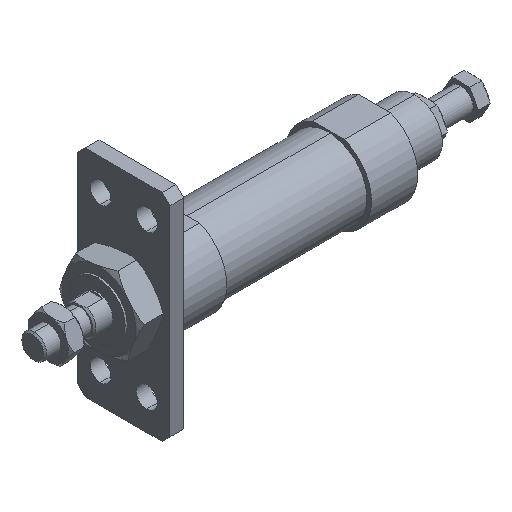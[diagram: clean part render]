
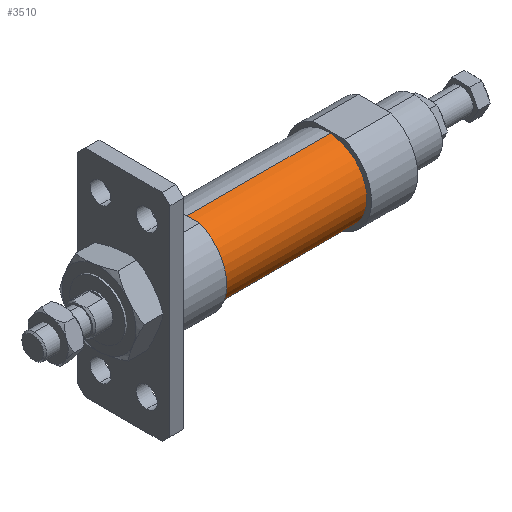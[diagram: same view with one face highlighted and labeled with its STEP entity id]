
A CAD part, isometric view. The second image highlights one B-rep face of the part: STEP entity #3510.
In plain terms, the highlighted cylindrical face has radius 12.5 mm (diameter 25 mm), a partial arc.
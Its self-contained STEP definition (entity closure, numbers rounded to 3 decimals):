
#86 = EDGE_CURVE ( 'NONE', #5156, #4735, #1237, .T. ) ;
#140 = EDGE_CURVE ( 'NONE', #3982, #1540, #570, .T. ) ;
#297 = AXIS2_PLACEMENT_3D ( 'NONE', #1867, #4932, #3779 ) ;
#516 = EDGE_CURVE ( 'NONE', #3982, #5156, #1520, .T. ) ;
#570 = LINE ( 'NONE', #2451, #3505 ) ;
#705 = CYLINDRICAL_SURFACE ( 'NONE', #4228, 12.5 ) ;
#781 = FACE_OUTER_BOUND ( 'NONE', #3902, .T. ) ;
#813 = ORIENTED_EDGE ( 'NONE', *, *, #86, .F. ) ;
#911 = CARTESIAN_POINT ( 'NONE',  ( 23.5, 0., -12.5 ) ) ;
#966 = DIRECTION ( 'NONE',  ( 1., 0., 0. ) ) ;
#1120 = ORIENTED_EDGE ( 'NONE', *, *, #140, .T. ) ;
#1165 = ORIENTED_EDGE ( 'NONE', *, *, #4352, .T. ) ;
#1228 = CIRCLE ( 'NONE', #297, 12.5 ) ;
#1237 = LINE ( 'NONE', #1408, #4824 ) ;
#1262 = ORIENTED_EDGE ( 'NONE', *, *, #516, .F. ) ;
#1408 = CARTESIAN_POINT ( 'NONE',  ( 23.5, 0., -12.5 ) ) ;
#1520 = CIRCLE ( 'NONE', #3255, 12.5 ) ;
#1540 = VERTEX_POINT ( 'NONE', #1957 ) ;
#1785 = CARTESIAN_POINT ( 'NONE',  ( 23.5, 0., 12.5 ) ) ;
#1820 = DIRECTION ( 'NONE',  ( 0., 0., -1. ) ) ;
#1867 = CARTESIAN_POINT ( 'NONE',  ( -23.5, 0., 0. ) ) ;
#1913 = CARTESIAN_POINT ( 'NONE',  ( 23.5, 0., 0. ) ) ;
#1957 = CARTESIAN_POINT ( 'NONE',  ( -23.5, 0., 12.5 ) ) ;
#2217 = CARTESIAN_POINT ( 'NONE',  ( 23.5, 0., 0. ) ) ;
#2250 = DIRECTION ( 'NONE',  ( -1., 0., 0. ) ) ;
#2451 = CARTESIAN_POINT ( 'NONE',  ( 23.5, 0., 12.5 ) ) ;
#3255 = AXIS2_PLACEMENT_3D ( 'NONE', #1913, #966, #1820 ) ;
#3505 = VECTOR ( 'NONE', #4013, 1000. ) ;
#3510 = ADVANCED_FACE ( 'NONE', ( #781 ), #705, .T. ) ;
#3779 = DIRECTION ( 'NONE',  ( 0., 0., -1. ) ) ;
#3902 = EDGE_LOOP ( 'NONE', ( #813, #1262, #1120, #1165 ) ) ;
#3982 = VERTEX_POINT ( 'NONE', #1785 ) ;
#4013 = DIRECTION ( 'NONE',  ( -1., 0., 0. ) ) ;
#4214 = DIRECTION ( 'NONE',  ( 0., 0., 1. ) ) ;
#4228 = AXIS2_PLACEMENT_3D ( 'NONE', #2217, #5138, #4214 ) ;
#4352 = EDGE_CURVE ( 'NONE', #1540, #4735, #1228, .T. ) ;
#4735 = VERTEX_POINT ( 'NONE', #4966 ) ;
#4824 = VECTOR ( 'NONE', #2250, 1000. ) ;
#4932 = DIRECTION ( 'NONE',  ( 1., 0., 0. ) ) ;
#4966 = CARTESIAN_POINT ( 'NONE',  ( -23.5, 0., -12.5 ) ) ;
#5138 = DIRECTION ( 'NONE',  ( -1., 0., 0. ) ) ;
#5156 = VERTEX_POINT ( 'NONE', #911 ) ;
